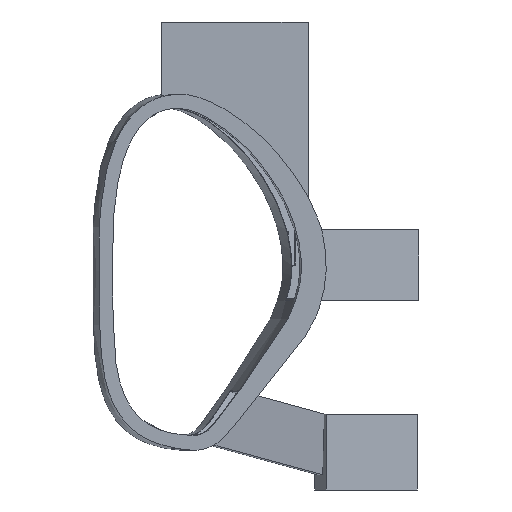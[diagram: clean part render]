
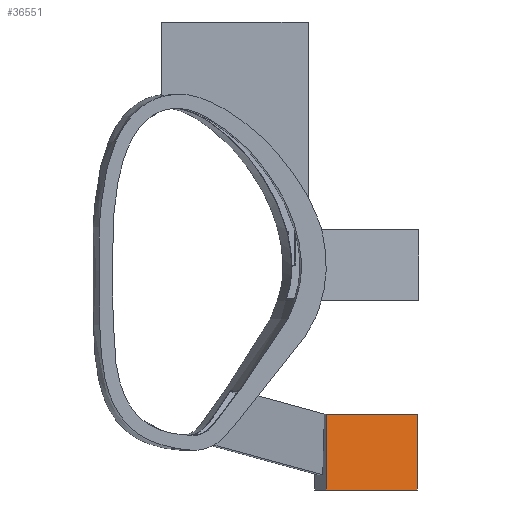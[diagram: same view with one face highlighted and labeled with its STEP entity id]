
A CAD part, front view. The second image highlights one B-rep face of the part: STEP entity #36551.
In plain terms, the highlighted planar face has unit normal (0.174, -0.985, 0).
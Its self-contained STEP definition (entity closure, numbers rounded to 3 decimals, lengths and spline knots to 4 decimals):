
#14484 = PLANE('',#14485);
#14485 = AXIS2_PLACEMENT_3D('',#14486,#14487,#14488);
#14486 = CARTESIAN_POINT('',(14.3746,2.5346,
    -8.2788));
#14487 = DIRECTION('',(-0.985,-0.174,-0.));
#14488 = DIRECTION('',(0.,0.,-1.));
#14557 = PLANE('',#14558);
#14558 = AXIS2_PLACEMENT_3D('',#14559,#14560,#14561);
#14559 = CARTESIAN_POINT('',(16.3914,2.8902,
    -6.5988));
#14560 = DIRECTION('',(0.,0.,1.));
#14561 = DIRECTION('',(0.985,0.174,0.));
#28158 = VERTEX_POINT('',#28159);
#28159 = CARTESIAN_POINT('',(14.6229,1.1264,
    -9.9588));
#28173 = PLANE('',#28174);
#28174 = AXIS2_PLACEMENT_3D('',#28175,#28176,#28177);
#28175 = CARTESIAN_POINT('',(16.3914,2.8902,
    -9.9588));
#28176 = DIRECTION('',(0.,-0.,-1.));
#28177 = DIRECTION('',(-0.985,-0.174,0.));
#28185 = EDGE_CURVE('',#28158,#28186,#28188,.T.);
#28186 = VERTEX_POINT('',#28187);
#28187 = CARTESIAN_POINT('',(14.6229,1.1264,
    -6.5988));
#28188 = SURFACE_CURVE('',#28189,(#28193,#28200),.PCURVE_S1.);
#28189 = LINE('',#28190,#28191);
#28190 = CARTESIAN_POINT('',(14.6229,1.1264,
    -10.0288));
#28191 = VECTOR('',#28192,1.);
#28192 = DIRECTION('',(0.,0.,1.));
#28193 = PCURVE('',#14484,#28194);
#28194 = DEFINITIONAL_REPRESENTATION('',(#28195),#28199);
#28195 = LINE('',#28196,#28197);
#28196 = CARTESIAN_POINT('',(1.75,1.43));
#28197 = VECTOR('',#28198,1.);
#28198 = DIRECTION('',(-1.,0.));
#28199 = ( GEOMETRIC_REPRESENTATION_CONTEXT(2) 
PARAMETRIC_REPRESENTATION_CONTEXT() REPRESENTATION_CONTEXT('2D SPACE',''
  ) );
#28200 = PCURVE('',#28201,#28206);
#28201 = PLANE('',#28202);
#28202 = AXIS2_PLACEMENT_3D('',#28203,#28204,#28205);
#28203 = CARTESIAN_POINT('',(16.6397,1.482,
    -8.2788));
#28204 = DIRECTION('',(0.174,-0.985,-0.));
#28205 = DIRECTION('',(0.,0.,-1.));
#28206 = DEFINITIONAL_REPRESENTATION('',(#28207),#28211);
#28207 = LINE('',#28208,#28209);
#28208 = CARTESIAN_POINT('',(1.75,-2.048));
#28209 = VECTOR('',#28210,1.);
#28210 = DIRECTION('',(-1.,0.));
#28211 = ( GEOMETRIC_REPRESENTATION_CONTEXT(2) 
PARAMETRIC_REPRESENTATION_CONTEXT() REPRESENTATION_CONTEXT('2D SPACE',''
  ) );
#28240 = EDGE_CURVE('',#28241,#28186,#28243,.T.);
#28241 = VERTEX_POINT('',#28242);
#28242 = CARTESIAN_POINT('',(18.6564,1.8376,
    -6.5988));
#28243 = SURFACE_CURVE('',#28244,(#28248,#28255),.PCURVE_S1.);
#28244 = LINE('',#28245,#28246);
#28245 = CARTESIAN_POINT('',(14.682,1.1368,
    -6.5988));
#28246 = VECTOR('',#28247,1.);
#28247 = DIRECTION('',(-0.985,-0.174,-0.));
#28248 = PCURVE('',#14557,#28249);
#28249 = DEFINITIONAL_REPRESENTATION('',(#28250),#28254);
#28250 = LINE('',#28251,#28252);
#28251 = CARTESIAN_POINT('',(-1.988,-1.43));
#28252 = VECTOR('',#28253,1.);
#28253 = DIRECTION('',(-1.,0.));
#28254 = ( GEOMETRIC_REPRESENTATION_CONTEXT(2) 
PARAMETRIC_REPRESENTATION_CONTEXT() REPRESENTATION_CONTEXT('2D SPACE',''
  ) );
#28255 = PCURVE('',#28201,#28256);
#28256 = DEFINITIONAL_REPRESENTATION('',(#28257),#28261);
#28257 = LINE('',#28258,#28259);
#28258 = CARTESIAN_POINT('',(-1.68,-1.988));
#28259 = VECTOR('',#28260,1.);
#28260 = DIRECTION('',(0.,-1.));
#28261 = ( GEOMETRIC_REPRESENTATION_CONTEXT(2) 
PARAMETRIC_REPRESENTATION_CONTEXT() REPRESENTATION_CONTEXT('2D SPACE',''
  ) );
#28279 = PLANE('',#28280);
#28280 = AXIS2_PLACEMENT_3D('',#28281,#28282,#28283);
#28281 = CARTESIAN_POINT('',(18.4081,3.2458,
    -8.2788));
#28282 = DIRECTION('',(-0.985,-0.174,-0.));
#28283 = DIRECTION('',(0.,0.,-1.));
#36551 = ADVANCED_FACE('',(#36552),#28201,.T.);
#36552 = FACE_BOUND('',#36553,.T.);
#36553 = EDGE_LOOP('',(#36554,#36577,#36598,#36599));
#36554 = ORIENTED_EDGE('',*,*,#36555,.T.);
#36555 = EDGE_CURVE('',#28158,#36556,#36558,.T.);
#36556 = VERTEX_POINT('',#36557);
#36557 = CARTESIAN_POINT('',(18.6564,1.8376,
    -9.9588));
#36558 = SURFACE_CURVE('',#36559,(#36563,#36570),.PCURVE_S1.);
#36559 = LINE('',#36560,#36561);
#36560 = CARTESIAN_POINT('',(14.682,1.1368,
    -9.9588));
#36561 = VECTOR('',#36562,1.);
#36562 = DIRECTION('',(0.985,0.174,0.));
#36563 = PCURVE('',#28201,#36564);
#36564 = DEFINITIONAL_REPRESENTATION('',(#36565),#36569);
#36565 = LINE('',#36566,#36567);
#36566 = CARTESIAN_POINT('',(1.68,-1.988));
#36567 = VECTOR('',#36568,1.);
#36568 = DIRECTION('',(0.,1.));
#36569 = ( GEOMETRIC_REPRESENTATION_CONTEXT(2) 
PARAMETRIC_REPRESENTATION_CONTEXT() REPRESENTATION_CONTEXT('2D SPACE',''
  ) );
#36570 = PCURVE('',#28173,#36571);
#36571 = DEFINITIONAL_REPRESENTATION('',(#36572),#36576);
#36572 = LINE('',#36573,#36574);
#36573 = CARTESIAN_POINT('',(1.988,-1.43));
#36574 = VECTOR('',#36575,1.);
#36575 = DIRECTION('',(-1.,0.));
#36576 = ( GEOMETRIC_REPRESENTATION_CONTEXT(2) 
PARAMETRIC_REPRESENTATION_CONTEXT() REPRESENTATION_CONTEXT('2D SPACE',''
  ) );
#36577 = ORIENTED_EDGE('',*,*,#36578,.T.);
#36578 = EDGE_CURVE('',#36556,#28241,#36579,.T.);
#36579 = SURFACE_CURVE('',#36580,(#36584,#36591),.PCURVE_S1.);
#36580 = LINE('',#36581,#36582);
#36581 = CARTESIAN_POINT('',(18.6564,1.8376,
    -10.0288));
#36582 = VECTOR('',#36583,1.);
#36583 = DIRECTION('',(0.,0.,1.));
#36584 = PCURVE('',#28201,#36585);
#36585 = DEFINITIONAL_REPRESENTATION('',(#36586),#36590);
#36586 = LINE('',#36587,#36588);
#36587 = CARTESIAN_POINT('',(1.75,2.048));
#36588 = VECTOR('',#36589,1.);
#36589 = DIRECTION('',(-1.,0.));
#36590 = ( GEOMETRIC_REPRESENTATION_CONTEXT(2) 
PARAMETRIC_REPRESENTATION_CONTEXT() REPRESENTATION_CONTEXT('2D SPACE',''
  ) );
#36591 = PCURVE('',#28279,#36592);
#36592 = DEFINITIONAL_REPRESENTATION('',(#36593),#36597);
#36593 = LINE('',#36594,#36595);
#36594 = CARTESIAN_POINT('',(1.75,1.43));
#36595 = VECTOR('',#36596,1.);
#36596 = DIRECTION('',(-1.,0.));
#36597 = ( GEOMETRIC_REPRESENTATION_CONTEXT(2) 
PARAMETRIC_REPRESENTATION_CONTEXT() REPRESENTATION_CONTEXT('2D SPACE',''
  ) );
#36598 = ORIENTED_EDGE('',*,*,#28240,.T.);
#36599 = ORIENTED_EDGE('',*,*,#28185,.F.);
